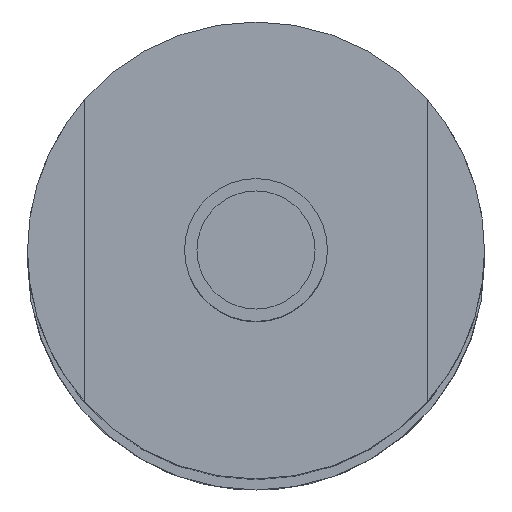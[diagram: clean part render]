
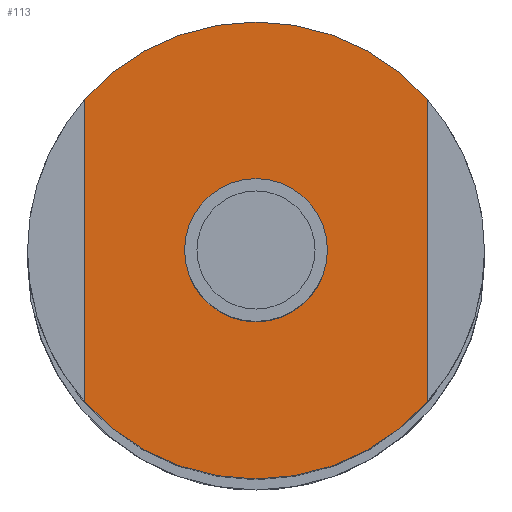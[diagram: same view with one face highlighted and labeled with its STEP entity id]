
A CAD part, top view. The second image highlights one B-rep face of the part: STEP entity #113.
In plain terms, the highlighted planar face has unit normal (0, 0, 1).
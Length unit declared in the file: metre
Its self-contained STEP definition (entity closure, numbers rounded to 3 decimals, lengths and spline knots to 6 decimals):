
#113=ADVANCED_FACE('17:304',(#222,#223),#224,.T.);
#222=FACE_BOUND('',#340,.T.);
#223=FACE_OUTER_BOUND('',#341,.T.);
#224=PLANE('',#342);
#340=EDGE_LOOP('',(#550,#551));
#341=EDGE_LOOP('',(#552,#553,#554,#555,#556,#557));
#342=AXIS2_PLACEMENT_3D('',#558,#559,#560);
#550=ORIENTED_EDGE('',*,*,#645,.T.);
#551=ORIENTED_EDGE('',*,*,#713,.T.);
#552=ORIENTED_EDGE('',*,*,#716,.F.);
#553=ORIENTED_EDGE('',*,*,#653,.F.);
#554=ORIENTED_EDGE('',*,*,#652,.F.);
#555=ORIENTED_EDGE('',*,*,#701,.T.);
#556=ORIENTED_EDGE('',*,*,#708,.F.);
#557=ORIENTED_EDGE('',*,*,#707,.F.);
#558=CARTESIAN_POINT('',(0.,0.,0.149));
#559=DIRECTION('',(0.0,0.0,1.0));
#560=DIRECTION('',(1.0,0.0,0.0));
#645=EDGE_CURVE('19:2123',#757,#761,#763,.F.);
#652=EDGE_CURVE('17:354',#774,#776,#777,.F.);
#653=EDGE_CURVE('17:345',#776,#778,#779,.F.);
#701=EDGE_CURVE('17:844',#774,#849,#850,.T.);
#707=EDGE_CURVE('17:351',#857,#859,#860,.F.);
#708=EDGE_CURVE('17:342',#859,#849,#861,.F.);
#713=EDGE_CURVE('',#761,#757,#866,.F.);
#716=EDGE_CURVE('17:790',#778,#857,#869,.F.);
#757=VERTEX_POINT('',#934);
#761=VERTEX_POINT('',#939);
#763=CIRCLE('',#942,0.0025);
#774=VERTEX_POINT('',#955);
#776=VERTEX_POINT('',#958);
#777=CIRCLE('',#959,0.008);
#778=VERTEX_POINT('',#960);
#779=CIRCLE('',#961,0.008);
#849=VERTEX_POINT('',#1046);
#850=LINE('',#1047,#1048);
#857=VERTEX_POINT('',#1057);
#859=VERTEX_POINT('',#1060);
#860=CIRCLE('',#1061,0.008);
#861=CIRCLE('',#1062,0.008);
#866=CIRCLE('',#1067,0.0025);
#869=LINE('',#1070,#1071);
#934=CARTESIAN_POINT('',(-0.00261,0.000133,0.149));
#939=CARTESIAN_POINT('',(0.00239,0.000133,0.149));
#942=AXIS2_PLACEMENT_3D('',#1148,#1149,#1150);
#955=CARTESIAN_POINT('',(-0.00611,0.005425,0.149));
#958=CARTESIAN_POINT('',(-0.00011,0.008133,0.149));
#959=AXIS2_PLACEMENT_3D('',#1160,#1161,#1162);
#960=CARTESIAN_POINT('',(0.00589,0.005425,0.149));
#961=AXIS2_PLACEMENT_3D('',#1163,#1164,#1165);
#1046=CARTESIAN_POINT('',(-0.00611,-0.005158,0.149));
#1047=CARTESIAN_POINT('',(-0.00611,0.000067,0.149));
#1048=VECTOR('',#1235,1.0);
#1057=CARTESIAN_POINT('',(0.00589,-0.005158,0.149));
#1060=CARTESIAN_POINT('',(-0.00011,-0.007867,0.149));
#1061=AXIS2_PLACEMENT_3D('',#1242,#1243,#1244);
#1062=AXIS2_PLACEMENT_3D('',#1245,#1246,#1247);
#1067=AXIS2_PLACEMENT_3D('',#1254,#1255,#1256);
#1070=CARTESIAN_POINT('',(0.00589,0.000067,0.149));
#1071=VECTOR('',#1260,1.0);
#1148=CARTESIAN_POINT('',(-0.00011,0.000133,0.149));
#1149=DIRECTION('',(0.0,0.0,1.0));
#1150=DIRECTION('',(1.0,0.0,-0.0));
#1160=CARTESIAN_POINT('',(-0.00011,0.000133,0.149));
#1161=DIRECTION('',(0.0,0.0,1.0));
#1162=DIRECTION('',(1.0,0.0,0.0));
#1163=CARTESIAN_POINT('',(-0.00011,0.000133,0.149));
#1164=DIRECTION('',(0.0,0.0,1.0));
#1165=DIRECTION('',(1.0,0.0,0.0));
#1235=DIRECTION('',(0.,-1.0,0.0));
#1242=CARTESIAN_POINT('',(-0.00011,0.000133,0.149));
#1243=DIRECTION('',(0.0,0.0,1.0));
#1244=DIRECTION('',(1.0,0.0,0.0));
#1245=CARTESIAN_POINT('',(-0.00011,0.000133,0.149));
#1246=DIRECTION('',(0.0,0.0,1.0));
#1247=DIRECTION('',(1.0,0.0,0.0));
#1254=CARTESIAN_POINT('',(-0.00011,0.000133,0.149));
#1255=DIRECTION('',(0.0,0.0,1.0));
#1256=DIRECTION('',(1.0,0.0,-0.0));
#1260=DIRECTION('',(0.,1.0,0.0));
